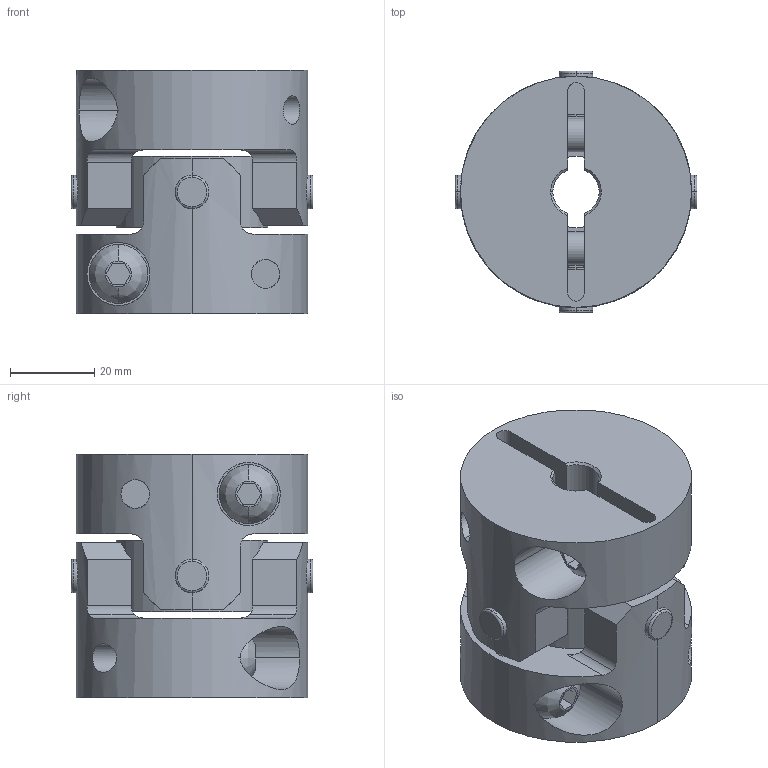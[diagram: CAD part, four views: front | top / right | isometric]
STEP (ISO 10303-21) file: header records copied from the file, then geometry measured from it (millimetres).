
FILE_DESCRIPTION((''),'2;1');
FILE_NAME('UA-55C-11×18.stp','2013-05-22T13:36:39',(''),(''),'AutoCAD STEP 2000i','AutoCAD 2000i',', , ');
FILE_SCHEMA(('CONFIG_CONTROL_DESIGN'));
Length unit declared in the file: millimetre
Products named in the file (7): UA-55C-10×18; 忣兜1; UA-5502-D18; BTN-M8; UA-5502-D10-1; UA-5502-D10; UA55-SEN
Assembly tree (8 placements, depth 3):
  UA-55C-10×18
    忣兜1
    UA-5502-D18
      BTN-M8
    UA-5502-D10-1
      BTN-M8
    UA-5502-D10
      BTN-M8
    UA55-SEN
Bounding box: 57.55 x 57.55 x 58 mm (x, y, z)
Volume: 100150.5 mm3; surface area: 31272.2 mm2
Topology: 1 solids, 1 shells, 206 faces, 554 edges, 364 vertices
Faces by surface type: cylinder 96, plane 78, cone 16, bspline 8, torus 8
Entity records: 8407 total; most frequent: CARTESIAN_POINT 3071, ORIENTED_EDGE 1108, DIRECTION 1068, EDGE_CURVE 554, AXIS2_PLACEMENT_3D 411, VERTEX_POINT 364, VECTOR 246, LINE 246
